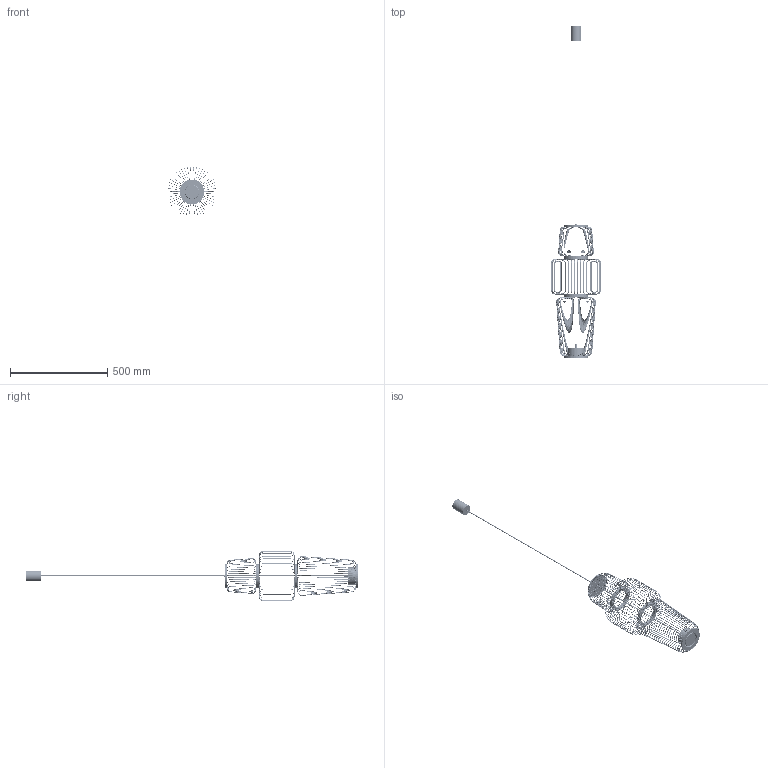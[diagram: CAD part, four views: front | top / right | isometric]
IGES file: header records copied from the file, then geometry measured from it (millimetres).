
Start section: SolidWorks IGES file using analytic representation for surfaces
Global section: file name: C:\Users\anna.bielnik\Desktop\nome b\NOME B\nome b pm.IGS; native system: SolidWorks 2024; preprocessor: SolidWorks 2024; author: anna.bielnik; date: 260108.140532; units: millimetre
Bounding box: 257.74 x 1707.78 x 257.62 mm (x, y, z)
Surface area: 527388.6 mm2 (no closed solid volume)
Topology: 0 solids, 0 shells, 3833 faces, 34780 edges, 34780 vertices
Faces by surface type: revolution 2210, bspline 1623
